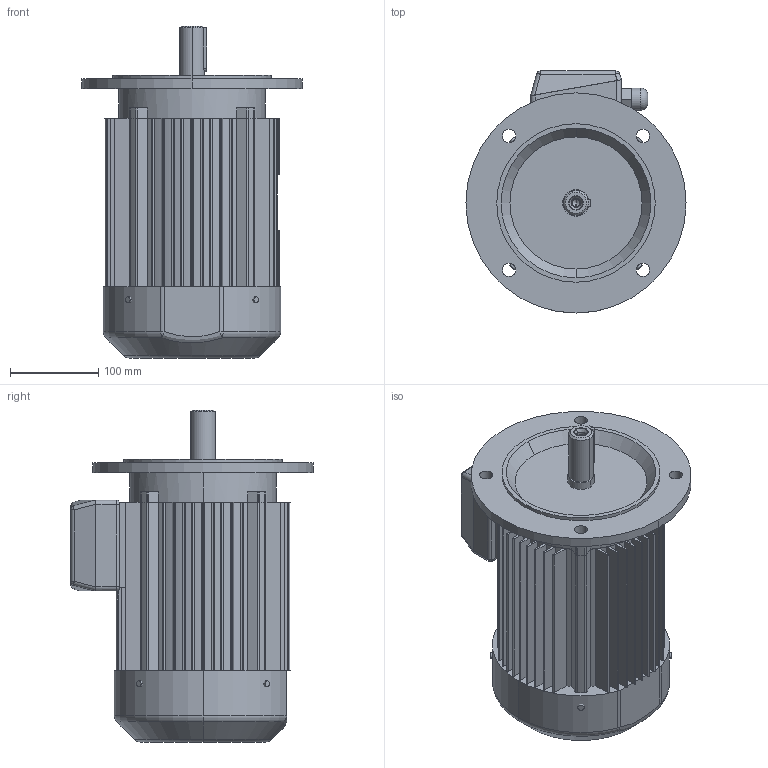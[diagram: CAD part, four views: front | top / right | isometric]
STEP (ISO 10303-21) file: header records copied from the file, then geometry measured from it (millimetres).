
FILE_DESCRIPTION (( 'STEP AP203' ), '1' );
FILE_NAME ('2SIEK100L2,6.STEP', '2012-10-26T12:29:36', ( 'INDUKTA' ), ( 'CANTONI MOTOR' ), 'SwSTEP 2.0', 'SolidWorks 2003064', '' );
FILE_SCHEMA (( 'CONFIG_CONTROL_DESIGN' ));
Length unit declared in the file: millimetre
Products named in the file (1): 2SIEK100L2,6
Bounding box: 250 x 275 x 377 mm (x, y, z)
Volume: 8786711.7 mm3; surface area: 654093.8 mm2
Topology: 11 solids, 11 shells, 383 faces, 1021 edges, 657 vertices
Faces by surface type: cylinder 180, plane 171, cone 14, torus 11, sphere 6, bspline 1
Entity records: 12486 total; most frequent: CARTESIAN_POINT 2628, DIRECTION 2140, ORIENTED_EDGE 2026, EDGE_CURVE 1013, AXIS2_PLACEMENT_3D 771, VERTEX_POINT 657, LINE 598, VECTOR 598
